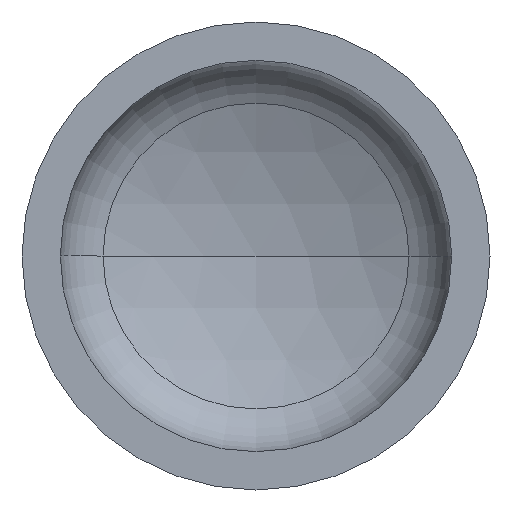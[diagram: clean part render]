
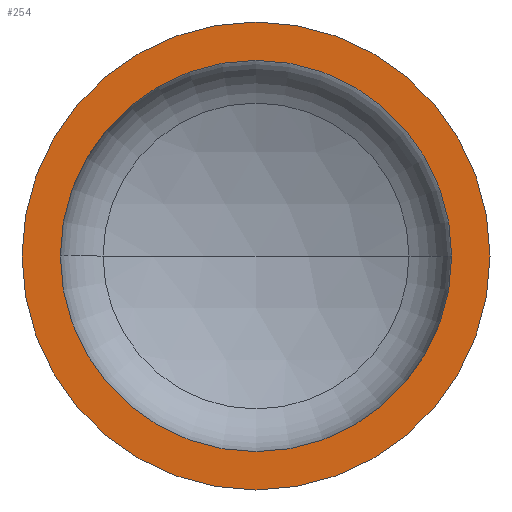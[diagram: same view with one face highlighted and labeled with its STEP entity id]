
A CAD part, front view. The second image highlights one B-rep face of the part: STEP entity #254.
In plain terms, the highlighted planar face has unit normal (0, -1, 0).
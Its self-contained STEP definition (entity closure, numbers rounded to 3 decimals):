
#9 = AXIS2_PLACEMENT_3D ( 'NONE', #401, #264, #37 ) ;
#17 = VERTEX_POINT ( 'NONE', #222 ) ;
#20 = ORIENTED_EDGE ( 'NONE', *, *, #395, .T. ) ;
#21 = AXIS2_PLACEMENT_3D ( 'NONE', #387, #189, #217 ) ;
#31 = AXIS2_PLACEMENT_3D ( 'NONE', #376, #234, #397 ) ;
#37 = DIRECTION ( 'NONE',  ( 1., 0., 0. ) ) ;
#57 = AXIS2_PLACEMENT_3D ( 'NONE', #362, #346, #225 ) ;
#59 = AXIS2_PLACEMENT_3D ( 'NONE', #270, #247, #265 ) ;
#74 = EDGE_CURVE ( 'NONE', #17, #138, #146, .T. ) ;
#79 = EDGE_CURVE ( 'NONE', #98, #125, #324, .T. ) ;
#85 = ORIENTED_EDGE ( 'NONE', *, *, #365, .F. ) ;
#98 = VERTEX_POINT ( 'NONE', #282 ) ;
#115 = ORIENTED_EDGE ( 'NONE', *, *, #79, .F. ) ;
#123 = ORIENTED_EDGE ( 'NONE', *, *, #74, .T. ) ;
#125 = VERTEX_POINT ( 'NONE', #142 ) ;
#126 = EDGE_LOOP ( 'NONE', ( #20, #123 ) ) ;
#138 = VERTEX_POINT ( 'NONE', #325 ) ;
#142 = CARTESIAN_POINT ( 'NONE',  ( -460., 0., 0. ) ) ;
#146 = CIRCLE ( 'NONE', #59, 550. ) ;
#155 = FACE_BOUND ( 'NONE', #334, .T. ) ;
#182 = PLANE ( 'NONE',  #21 ) ;
#189 = DIRECTION ( 'NONE',  ( 0., 1., 0. ) ) ;
#217 = DIRECTION ( 'NONE',  ( -1., 0., 0. ) ) ;
#219 = FACE_OUTER_BOUND ( 'NONE', #126, .T. ) ;
#222 = CARTESIAN_POINT ( 'NONE',  ( -550., 0., 0. ) ) ;
#225 = DIRECTION ( 'NONE',  ( 1., 0., 0. ) ) ;
#227 = CIRCLE ( 'NONE', #31, 460. ) ;
#234 = DIRECTION ( 'NONE',  ( 0., -1., 0. ) ) ;
#247 = DIRECTION ( 'NONE',  ( 0., -1., 0. ) ) ;
#254 = ADVANCED_FACE ( 'NONE', ( #155, #219 ), #182, .F. ) ;
#264 = DIRECTION ( 'NONE',  ( 0., -1., 0. ) ) ;
#265 = DIRECTION ( 'NONE',  ( 1., 0., 0. ) ) ;
#270 = CARTESIAN_POINT ( 'NONE',  ( 0., 0., 0. ) ) ;
#282 = CARTESIAN_POINT ( 'NONE',  ( 460., 0., 0. ) ) ;
#324 = CIRCLE ( 'NONE', #57, 460. ) ;
#325 = CARTESIAN_POINT ( 'NONE',  ( 550., 0., 0. ) ) ;
#334 = EDGE_LOOP ( 'NONE', ( #115, #85 ) ) ;
#346 = DIRECTION ( 'NONE',  ( 0., -1., 0. ) ) ;
#362 = CARTESIAN_POINT ( 'NONE',  ( 0., 0., 0. ) ) ;
#365 = EDGE_CURVE ( 'NONE', #125, #98, #227, .T. ) ;
#375 = CIRCLE ( 'NONE', #9, 550. ) ;
#376 = CARTESIAN_POINT ( 'NONE',  ( 0., 0., 0. ) ) ;
#387 = CARTESIAN_POINT ( 'NONE',  ( -550., 0., 0. ) ) ;
#395 = EDGE_CURVE ( 'NONE', #138, #17, #375, .T. ) ;
#397 = DIRECTION ( 'NONE',  ( 1., 0., 0. ) ) ;
#401 = CARTESIAN_POINT ( 'NONE',  ( 0., 0., 0. ) ) ;
